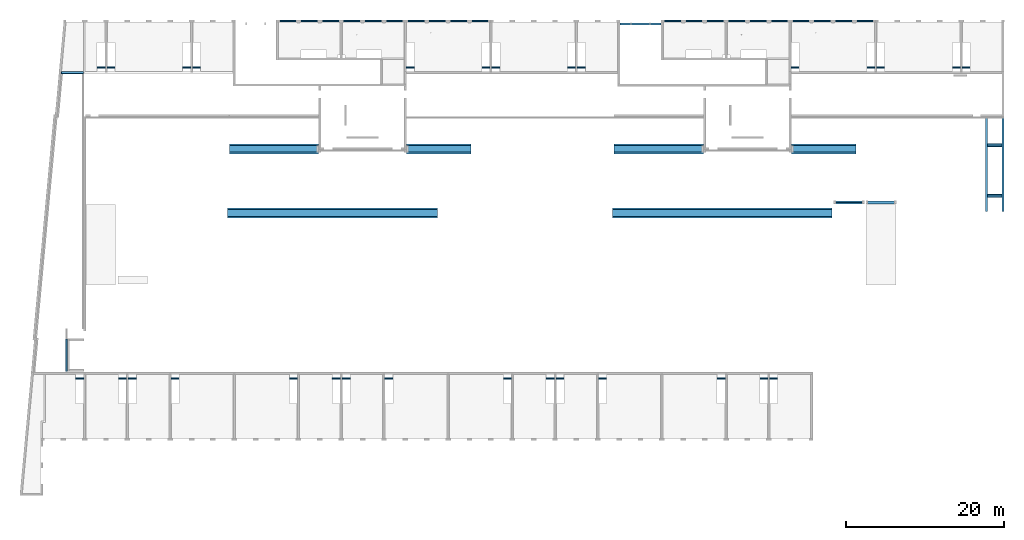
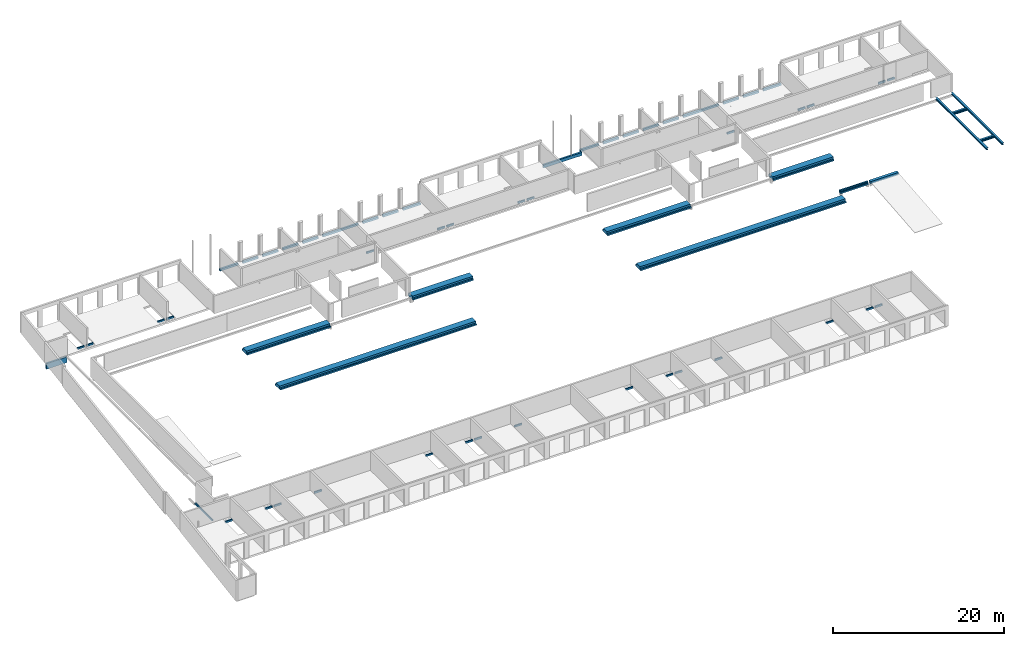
# One storey, part 4 of 18: 48 beams.
"""IFC2X3 building model written with IfcOpenShell, lengths in millimetres."""

from ifc_helpers import new_model, entity, si_unit, converted_unit, derived_unit, direction, frame, frame_2d, origin, origin_2d_with_axis, place, context, subcontext, project, spatial, polyline, circle_curve, parameter, trimmed, segment, composite_curve, rectangle, i_section, outline, extrude, clip, halfspace, source, transform, mapped, material, type_object, type_shapes, element, save


model = new_model("IFC2X3")

# Units and contexts
model_context = context("Model", 3, precision=0.01, world=origin(), true_north=direction((6.12303176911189e-17, 1.0)))
body_context = subcontext(model_context, "Body", "Model", "MODEL_VIEW")
ifc_project = project(units=[si_unit("LENGTHUNIT", "METRE", prefix="MILLI"), si_unit("AREAUNIT", "SQUARE_METRE"), si_unit("VOLUMEUNIT", "CUBIC_METRE"), converted_unit("PLANEANGLEUNIT", "DEGREE", entity("IfcRatioMeasure", 0.0174532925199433), si_unit("PLANEANGLEUNIT", "RADIAN"), dimensions=[0, 0, 0, 0, 0, 0, 0]), si_unit("MASSUNIT", "GRAM", prefix="KILO"), derived_unit("MASSDENSITYUNIT", [(si_unit("MASSUNIT", "GRAM", prefix="KILO"), 1), (si_unit("LENGTHUNIT", "METRE"), -3)]), si_unit("TIMEUNIT", "SECOND"), si_unit("FREQUENCYUNIT", "HERTZ"), si_unit("THERMODYNAMICTEMPERATUREUNIT", "DEGREE_CELSIUS"), derived_unit("THERMALTRANSMITTANCEUNIT", [(si_unit("MASSUNIT", "GRAM", prefix="KILO"), 1), (si_unit("THERMODYNAMICTEMPERATUREUNIT", "KELVIN"), -1), (si_unit("TIMEUNIT", "SECOND"), -3)]), derived_unit("VOLUMETRICFLOWRATEUNIT", [(si_unit("LENGTHUNIT", "METRE"), 3), (si_unit("TIMEUNIT", "SECOND"), -1)]), si_unit("ELECTRICCURRENTUNIT", "AMPERE"), si_unit("ELECTRICVOLTAGEUNIT", "VOLT"), si_unit("POWERUNIT", "WATT"), si_unit("FORCEUNIT", "NEWTON", prefix="KILO"), si_unit("ILLUMINANCEUNIT", "LUX"), si_unit("LUMINOUSFLUXUNIT", "LUMEN"), si_unit("LUMINOUSINTENSITYUNIT", "CANDELA"), derived_unit("USERDEFINED", [(si_unit("MASSUNIT", "GRAM", prefix="KILO"), -1), (si_unit("LENGTHUNIT", "METRE"), -2), (si_unit("TIMEUNIT", "SECOND"), 3), (si_unit("LUMINOUSFLUXUNIT", "LUMEN"), 1)]), derived_unit("LINEARVELOCITYUNIT", [(si_unit("LENGTHUNIT", "METRE"), 1), (si_unit("TIMEUNIT", "SECOND"), -1)]), si_unit("PRESSUREUNIT", "PASCAL"), derived_unit("USERDEFINED", [(si_unit("LENGTHUNIT", "METRE"), -2), (si_unit("MASSUNIT", "GRAM", prefix="KILO"), 1), (si_unit("TIMEUNIT", "SECOND"), -2)])], contexts=[model_context])

# Site, building, storey
site_placement = place(None, origin())
site = spatial("IfcSite", under=ifc_project, at=site_placement, Name="Default", CompositionType="ELEMENT")
building_placement = place(site_placement, origin())
building = spatial("IfcBuilding", under=site, at=building_placement, Name="niet gebruiken", CompositionType="ELEMENT")
storey_placement = place(building_placement, frame((0.0, 0.0, 3690.0)))
storey = spatial("IfcBuildingStorey", under=building, at=storey_placement, Name="01 eerste verdieping", CompositionType="ELEMENT", Elevation=3690.00000000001)

# Beams
ifc_material_1 = material(Name="NLRS_f2_beton prefab")
beam_type_1 = type_object("IfcBeamType", Name="NLRS_28.11_SF_WPB_prefabbeton balk dubbele sponning_gen:1250x460/200x260/200x260", PredefinedType="BEAM")
beam_1_placement = place(storey_placement, frame((74750.0, 28881.0, 50.0)))
element("IfcBeam", 1, at=beam_1_placement, inside=storey, type_object=beam_type_1, material=ifc_material_1, Name="NLRS_28.11_SF_WPB_prefabbeton balk dubbele sponning_gen:1250x460/200x260/200x260", ObjectType="NLRS_28.11_SF_WPB_prefabbeton balk dubbele sponning_gen:1250x460/200x260/200x260", context=body_context, shape_type="SweptSolid", body=[
    extrude(outline(polyline([(15.0, -625.0), (215.0, -625.0), (215.0, 625.0), (15.0, 625.0), (15.0, 425.0), (-245.0, 425.0), (-245.0, -425.0), (15.0, -425.0), (15.0, -625.0)])), frame((0.0, 0.0, -245.0), z_axis=(1.0, 0.0, 0.0), x_axis=(0.0, 0.0, -1.0)), (0.0, 0.0, 1.0), 27705.0000000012),
])
beam_2_placement = place(storey_placement, frame((97345.0, 36981.0, 50.0)))
element("IfcBeam", 2, at=beam_2_placement, inside=storey, type_object=beam_type_1, material=ifc_material_1, Name="NLRS_28.11_SF_WPB_prefabbeton balk dubbele sponning_gen:1250x460/200x260/200x260", ObjectType="NLRS_28.11_SF_WPB_prefabbeton balk dubbele sponning_gen:1250x460/200x260/200x260", context=body_context, shape_type="SweptSolid", body=[
    extrude(outline(polyline([(15.0, -625.0), (215.0, -625.0), (215.0, 625.0), (15.0, 625.0), (15.0, 425.0), (-245.0, 425.0), (-245.0, -425.0), (15.0, -425.0), (15.0, -625.0)])), frame((0.0, 0.0, -245.0), z_axis=(1.0, 0.0, 0.0), x_axis=(0.0, 0.0, -1.0)), (0.0, 0.0, 1.0), 8155.00000000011),
])
beam_3_placement = place(storey_placement, frame((74970.0, 36981.0, 50.0)))
element("IfcBeam", 3, at=beam_3_placement, inside=storey, type_object=beam_type_1, material=ifc_material_1, Name="NLRS_28.11_SF_WPB_prefabbeton balk dubbele sponning_gen:1250x460/200x260/200x260", ObjectType="NLRS_28.11_SF_WPB_prefabbeton balk dubbele sponning_gen:1250x460/200x260/200x260", context=body_context, shape_type="SweptSolid", body=[
    extrude(outline(polyline([(15.0, -625.0), (215.0, -625.0), (215.0, 625.0), (15.0, 625.0), (15.0, 425.0), (-245.0, 425.0), (-245.0, -425.0), (15.0, -425.0), (15.0, -625.0)])), frame((0.0, 0.0, -245.0), z_axis=(1.0, 0.0, 0.0), x_axis=(0.0, 0.0, -1.0)), (0.0, 0.0, 1.0), 11284.9999999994),
])
beam_4_placement = place(storey_placement, frame((26150.0, 28881.0, 50.0)))
element("IfcBeam", 4, at=beam_4_placement, inside=storey, type_object=beam_type_1, material=ifc_material_1, Name="NLRS_28.11_SF_WPB_prefabbeton balk dubbele sponning_gen:1250x460/200x260/200x260", ObjectType="NLRS_28.11_SF_WPB_prefabbeton balk dubbele sponning_gen:1250x460/200x260/200x260", context=body_context, shape_type="SweptSolid", body=[
    extrude(outline(polyline([(15.0, -625.0), (215.0, -625.0), (215.0, 625.0), (15.0, 625.0), (15.0, 425.0), (-245.0, 425.0), (-245.0, -425.0), (15.0, -425.0), (15.0, -625.0)])), frame((0.0, 0.0, -245.0), z_axis=(1.0, 0.0, 0.0), x_axis=(0.0, 0.0, -1.0)), (0.0, 0.0, 1.0), 26490.0000000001),
])
beam_5_placement = place(storey_placement, frame((48745.0, 36981.0, 50.0)))
element("IfcBeam", 5, at=beam_5_placement, inside=storey, type_object=beam_type_1, material=ifc_material_1, Name="NLRS_28.11_SF_WPB_prefabbeton balk dubbele sponning_gen:1250x460/200x260/200x260", ObjectType="NLRS_28.11_SF_WPB_prefabbeton balk dubbele sponning_gen:1250x460/200x260/200x260", context=body_context, shape_type="SweptSolid", body=[
    extrude(outline(polyline([(15.0, -625.0), (215.0, -625.0), (215.0, 625.0), (15.0, 625.0), (15.0, 425.0), (-245.0, 425.0), (-245.0, -425.0), (15.0, -425.0), (15.0, -625.0)])), frame((0.0, 0.0, -245.0), z_axis=(1.0, 0.0, 0.0), x_axis=(0.0, 0.0, -1.0)), (0.0, 0.0, 1.0), 8155.0000000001),
])
beam_6_placement = place(storey_placement, frame((26370.0, 36981.0, 50.0)))
element("IfcBeam", 6, at=beam_6_placement, inside=storey, type_object=beam_type_1, material=ifc_material_1, Name="NLRS_28.11_SF_WPB_prefabbeton balk dubbele sponning_gen:1250x460/200x260/200x260", ObjectType="NLRS_28.11_SF_WPB_prefabbeton balk dubbele sponning_gen:1250x460/200x260/200x260", context=body_context, shape_type="SweptSolid", body=[
    extrude(outline(polyline([(15.0, -625.0), (215.0, -625.0), (215.0, 625.0), (15.0, 625.0), (15.0, 425.0), (-245.0, 425.0), (-245.0, -425.0), (15.0, -425.0), (15.0, -625.0)])), frame((0.0, 0.0, -245.0), z_axis=(1.0, 0.0, 0.0), x_axis=(0.0, 0.0, -1.0)), (0.0, 0.0, 1.0), 11284.9999999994),
])
ifc_material_2 = material(Name="NLRS_f2_beton ihwg")
beam_type_2 = type_object("IfcBeamType", Name="250x280", PredefinedType="BEAM", material=ifc_material_2)
shared_shape_1 = source(origin(), body_context, "Body", "SweptSolid", [
    extrude(rectangle(XDim=2489.99999999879, YDim=250.000000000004, at=frame_2d((278.333333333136, -8.66151594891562e-12), x_axis=(1.0, 0.0))), frame((33266.6666666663, 53131.0, 3070.0)), (0.0, 0.0, 1.0), 279.999999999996),
    extrude(rectangle(XDim=2370.00000000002, YDim=250.000000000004, at=frame_2d((298.333333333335, -1.33795197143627e-11), x_axis=(1.0, 0.0))), frame((58493.3333333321, 53131.0, 3070.0), z_axis=(0.0, 0.0, 1.0), x_axis=(-1.0, 0.0, 0.0)), (0.0, 0.0, 1.0), 279.999999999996),
    extrude(rectangle(XDim=2079.99999999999, YDim=249.999999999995, at=origin_2d_with_axis()), frame((36450.0, 53131.0, 3070.0)), (0.0, 0.0, 1.0), 279.999999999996),
    extrude(rectangle(XDim=2080.0, YDim=250.000000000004, at=frame_2d((8.64019966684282e-12, -4.33431068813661e-12), x_axis=(1.0, 0.0))), frame((52650.0, 53131.0, 3070.0), z_axis=(0.0, 0.0, 1.0), x_axis=(-1.0, 0.0, 0.0)), (0.0, 0.0, 1.0), 279.999999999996),
    extrude(rectangle(XDim=2080.00000000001, YDim=249.999999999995, at=origin_2d_with_axis()), frame((55350.0, 53131.0, 3070.0)), (0.0, 0.0, 1.0), 279.999999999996),
    extrude(rectangle(XDim=4779.99999999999, YDim=249.999999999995, at=frame_2d((1.0481926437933e-09, 8.66151594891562e-12), x_axis=(1.0, 0.0))), frame((48600.0, 53131.0, 3070.0), z_axis=(0.0, 0.0, 1.0), x_axis=(-1.0, 0.0, 0.0)), (0.0, 0.0, 1.0), 279.999999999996),
    extrude(rectangle(XDim=2080.00000000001, YDim=250.000000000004, at=frame_2d((0.0, 4.33431068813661e-12), x_axis=(1.0, 0.0))), frame((44550.0, 53131.0, 3070.0), z_axis=(0.0, 0.0, 1.0), x_axis=(-1.0, 0.0, 0.0)), (0.0, 0.0, 1.0), 279.999999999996),
    extrude(rectangle(XDim=2079.99999999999, YDim=249.999999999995, at=origin_2d_with_axis()), frame((41850.0, 53131.0, 3070.0), z_axis=(0.0, 0.0, 1.0), x_axis=(-1.0, 0.0, 0.0)), (0.0, 0.0, 1.0), 279.999999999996),
    extrude(rectangle(XDim=2080.00000000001, YDim=250.000000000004, at=frame_2d((-4.43378667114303e-12, 0.0), x_axis=(1.0, 0.0))), frame((39150.0, 53131.0, 3070.0), z_axis=(0.0, 0.0, 1.0), x_axis=(-1.0, 0.0, 0.0)), (0.0, 0.0, 1.0), 279.999999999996),
])
type_shapes(beam_type_2, [shared_shape_1])
beam_7_placement = place(storey_placement, frame((0.0, 0.0, -3690.0)))
element("IfcBeam", 7, at=beam_7_placement, inside=storey, type_object=beam_type_2, material=ifc_material_2, Name="NLRS_28.11_SF_WPB_betonbalk ihwg recht_gen:250x280", ObjectType="250x280", context=body_context, shape_type="MappedRepresentation", body=[
    mapped(shared_shape_1, transform((0.0, 0.0, 0.0), scale=1.0)),
])
beam_type_3 = type_object("IfcBeamType", Name="250x280", PredefinedType="BEAM", material=ifc_material_2)
shared_shape_2 = source(origin(), body_context, "Body", "SweptSolid", [
    extrude(rectangle(XDim=2489.99999999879, YDim=250.000000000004, at=frame_2d((278.333333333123, -6.03250782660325e-12), x_axis=(1.0, 0.0))), frame((81866.6666666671, 53131.0, 3070.0)), (0.0, 0.0, 1.0), 279.999999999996),
    extrude(rectangle(XDim=2370.00000000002, YDim=250.000000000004, at=frame_2d((298.333333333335, -1.77067249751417e-11), x_axis=(1.0, 0.0))), frame((107093.333333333, 53131.0, 3070.0), z_axis=(0.0, 0.0, 1.0), x_axis=(-1.0, 0.0, 0.0)), (0.0, 0.0, 1.0), 279.999999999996),
    extrude(rectangle(XDim=2079.99999999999, YDim=249.999999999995, at=frame_2d((8.75388650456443e-12, 0.0), x_axis=(1.0, 0.0))), frame((85050.0, 53131.0, 3070.0)), (0.0, 0.0, 1.0), 279.999999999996),
    extrude(rectangle(XDim=2080.0, YDim=250.000000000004, at=frame_2d((-8.64019966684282e-12, 0.0), x_axis=(1.0, 0.0))), frame((101250.0, 53131.0, 3070.0), z_axis=(0.0, 0.0, 1.0), x_axis=(-1.0, 0.0, 0.0)), (0.0, 0.0, 1.0), 279.999999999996),
    extrude(rectangle(XDim=2080.00000000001, YDim=249.999999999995, at=frame_2d((0.0, -8.66862137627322e-12), x_axis=(1.0, 0.0))), frame((103950.0, 53131.0, 3070.0)), (0.0, 0.0, 1.0), 279.999999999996),
    extrude(rectangle(XDim=4779.99999999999, YDim=249.999999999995, at=frame_2d((1.05683284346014e-09, 1.29887212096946e-11), x_axis=(1.0, 0.0))), frame((97200.0, 53131.0, 3070.0), z_axis=(0.0, 0.0, 1.0), x_axis=(-1.0, 0.0, 0.0)), (0.0, 0.0, 1.0), 279.999999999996),
    extrude(rectangle(XDim=2080.00000000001, YDim=250.000000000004, at=origin_2d_with_axis()), frame((93150.0, 53131.0, 3070.0), z_axis=(0.0, 0.0, 1.0), x_axis=(-1.0, 0.0, 0.0)), (0.0, 0.0, 1.0), 279.999999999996),
    extrude(rectangle(XDim=2079.99999999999, YDim=249.999999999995, at=frame_2d((8.75388650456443e-12, 4.33431068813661e-12), x_axis=(1.0, 0.0))), frame((90450.0, 53131.0, 3070.0), z_axis=(0.0, 0.0, 1.0), x_axis=(-1.0, 0.0, 0.0)), (0.0, 0.0, 1.0), 279.999999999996),
    extrude(rectangle(XDim=2080.00000000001, YDim=250.000000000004, at=frame_2d((0.0, -4.33431068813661e-12), x_axis=(1.0, 0.0))), frame((87750.0, 53131.0, 3070.0), z_axis=(0.0, 0.0, 1.0), x_axis=(-1.0, 0.0, 0.0)), (0.0, 0.0, 1.0), 279.999999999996),
])
type_shapes(beam_type_3, [shared_shape_2])
beam_8_placement = place(storey_placement, frame((0.0, 0.0, -3690.0)))
element("IfcBeam", 8, at=beam_8_placement, inside=storey, type_object=beam_type_3, material=ifc_material_2, Name="NLRS_28.11_SF_WPB_betonbalk ihwg recht_gen:250x280", ObjectType="250x280", context=body_context, shape_type="MappedRepresentation", body=[
    mapped(shared_shape_2, transform((0.0, 0.0, 0.0), scale=1.0)),
])
ifc_material_3 = material(Name="NLRS_h2_staal")
beam_type_4 = type_object("IfcBeamType", Name="NLRS_28.11_SF_WPB_stalen ligger buisprofiel warmgevormd vierkant_gen:ligger buisprofiel warmgevormd vierkant SHSH_250x450x10", PredefinedType="BEAM")
beam_9_placement = place(storey_placement, frame((75700.0, 52764.5000000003, -450.0)))
element("IfcBeam", 9, at=beam_9_placement, inside=storey, type_object=beam_type_4, material=ifc_material_3, Name="NLRS_28.11_SF_WPB_stalen ligger buisprofiel warmgevormd vierkant_gen:ligger buisprofiel warmgevormd vierkant SHSH_250x450x10", ObjectType="NLRS_28.11_SF_WPB_stalen ligger buisprofiel warmgevormd vierkant_gen:ligger buisprofiel warmgevormd vierkant SHSH_250x450x10", context=body_context, shape_type="SweptSolid", body=[
    extrude(outline(polyline([(-125.0, -225.0), (125.0, -225.0), (125.0, 225.0), (-125.0, 225.0), (-125.0, -225.0)]), holes=[composite_curve([segment(trimmed(circle_curve(frame_2d((-105.0, -205.0), x_axis=(-1.0, 0.0)), 10.0), [parameter(360.0)], [parameter(89.9999999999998)], True, "PARAMETER"), False, "CONTINUOUS"), segment(polyline([(-115.0, -205.0), (-115.0, 205.0)]), True, "CONTINUOUS"), segment(trimmed(circle_curve(frame_2d((-105.0, 205.0), x_axis=(-1.0, 0.0)), 10.0), [parameter(269.999999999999)], [parameter(360.0)], True, "PARAMETER"), False, "CONTINUOUS"), segment(polyline([(-105.0, 215.0), (105.0, 215.0)]), True, "CONTINUOUS"), segment(trimmed(circle_curve(frame_2d((105.0, 205.0), x_axis=(-1.0, 0.0)), 10.0), [parameter(180.0)], [parameter(269.999999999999)], True, "PARAMETER"), False, "CONTINUOUS"), segment(polyline([(115.0, 205.0), (115.0, -205.0)]), True, "CONTINUOUS"), segment(trimmed(circle_curve(frame_2d((105.0, -205.0), x_axis=(-1.0, 0.0)), 10.0), [parameter(89.9999999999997)], [parameter(180.0)], True, "PARAMETER"), False, "CONTINUOUS"), segment(polyline([(105.0, -215.0), (-105.0, -215.0)]), True, "CONTINUOUS")], self_intersect=False)]), frame((0.0, 0.0, -225.0), z_axis=(1.0, 0.0, 0.0), x_axis=(0.0, -1.0, 0.0)), (0.0, 0.0, 1.0), 5200.0),
])
beam_type_5 = type_object("IfcBeamType", Name="NLRS_28.11_SF_WPB_betonbalk ihwg recht_gen:800x250", PredefinedType="BEAM")
beam_10_placement = place(storey_placement, frame((5080.0, 46621.0, -340.0)))
element("IfcBeam", 10, at=beam_10_placement, inside=storey, type_object=beam_type_5, material=ifc_material_2, Name="NLRS_28.11_SF_WPB_betonbalk ihwg recht_gen:800x250", ObjectType="NLRS_28.11_SF_WPB_betonbalk ihwg recht_gen:800x250", context=body_context, shape_type="Clipping", body=[
    clip(extrude(rectangle(XDim=799.999999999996, YDim=249.999999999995, at=frame_2d((-2.8421709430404e-13, 1.29958266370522e-11), x_axis=(1.0, 0.0))), frame((65.3473603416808, 0.0, -400.0), z_axis=(1.0, 0.0, 0.0), x_axis=(0.0, 0.0, -1.0)), (0.0, 0.0, 1.0), 2784.65263965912), halfspace(frame((56.0776821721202, -225.0, 3450.0), z_axis=(-0.995731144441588, 0.0923010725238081, 0.0), x_axis=(0.0, 0.0, -1.0)), False)),
])
beam_type_6 = type_object("IfcBeamType", Name="NLRS_28.11_SF_WPB_betonbalk ihwg recht_gen:180x250", PredefinedType="BEAM")
for number, where, name in (
    (11, (59525.0, 47236.0, -90.0), "NLRS_28.11_SF_WPB_betonbalk ihwg recht_gen:180x250"),
    (12, (58305.0, 47236.0, -90.0), "NLRS_28.11_SF_WPB_betonbalk ihwg recht_gen:180x250"),
    (13, (48725.0, 47236.0, -90.0), "NLRS_28.11_SF_WPB_betonbalk ihwg recht_gen:180x250"),
):
    element("IfcBeam", number, at=place(storey_placement, frame(where)), inside=storey, type_object=beam_type_6, material=ifc_material_2, Name=name, ObjectType="NLRS_28.11_SF_WPB_betonbalk ihwg recht_gen:180x250", context=body_context, shape_type="SweptSolid", body=[
        extrude(rectangle(XDim=249.999999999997, YDim=180.000000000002, at=frame_2d((-2.70006239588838e-13, -4.33431068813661e-12), x_axis=(1.0, 0.0))), frame((0.0, 0.0, -125.0), z_axis=(1.0, 0.0, 0.0), x_axis=(0.0, 0.0, -1.0)), (0.0, 0.0, 1.0), 970.000000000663),
    ])
for number, where, name in (
    (14, (21725.0, 47236.0, -90.0), "NLRS_28.11_SF_WPB_betonbalk ihwg recht_gen:180x250"),
    (15, (20505.0, 47236.0, -90.0), "NLRS_28.11_SF_WPB_betonbalk ihwg recht_gen:180x250"),
    (16, (10925.0, 47236.0, -90.0), "NLRS_28.11_SF_WPB_betonbalk ihwg recht_gen:180x250"),
    (17, (9705.0, 47236.0, -90.0), "NLRS_28.11_SF_WPB_betonbalk ihwg recht_gen:180x250"),
):
    element("IfcBeam", number, at=place(storey_placement, frame(where)), inside=storey, type_object=beam_type_6, material=ifc_material_2, Name=name, ObjectType="NLRS_28.11_SF_WPB_betonbalk ihwg recht_gen:180x250", context=body_context, shape_type="SweptSolid", body=[
        extrude(rectangle(XDim=249.999999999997, YDim=180.000000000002, at=frame_2d((-2.70006239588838e-13, -4.33431068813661e-12), x_axis=(1.0, 0.0))), frame((0.0, 0.0, -125.0), z_axis=(1.0, 0.0, 0.0), x_axis=(0.0, 0.0, -1.0)), (0.0, 0.0, 1.0), 970.000000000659),
    ])
for number, where, name in (
    (18, (69105.0, 47236.0, -90.0), "NLRS_28.11_SF_WPB_betonbalk ihwg recht_gen:180x250"),
    (19, (70325.0, 47236.0, -90.0), "NLRS_28.11_SF_WPB_betonbalk ihwg recht_gen:180x250"),
    (20, (97325.0, 47236.0, -90.0), "NLRS_28.11_SF_WPB_betonbalk ihwg recht_gen:180x250"),
    (21, (106905.0, 47236.0, -90.0), "NLRS_28.11_SF_WPB_betonbalk ihwg recht_gen:180x250"),
    (22, (108125.0, 47236.0, -90.0), "NLRS_28.11_SF_WPB_betonbalk ihwg recht_gen:180x250"),
    (23, (117705.0, 47236.0, -90.0), "NLRS_28.11_SF_WPB_betonbalk ihwg recht_gen:180x250"),
    (24, (118925.0, 47236.0, -90.0), "NLRS_28.11_SF_WPB_betonbalk ihwg recht_gen:180x250"),
):
    element("IfcBeam", number, at=place(storey_placement, frame(where)), inside=storey, type_object=beam_type_6, material=ifc_material_2, Name=name, ObjectType="NLRS_28.11_SF_WPB_betonbalk ihwg recht_gen:180x250", context=body_context, shape_type="SweptSolid", body=[
        extrude(rectangle(XDim=249.999999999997, YDim=180.000000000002, at=frame_2d((-2.70006239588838e-13, -4.33431068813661e-12), x_axis=(1.0, 0.0))), frame((0.0, 0.0, -125.0), z_axis=(1.0, 0.0, 0.0), x_axis=(0.0, 0.0, -1.0)), (0.0, 0.0, 1.0), 970.000000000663),
    ])
for number, where, name in (
    (25, (67625.0, 8006.0, -90.0), "NLRS_28.11_SF_WPB_betonbalk ihwg recht_gen:180x250"),
    (26, (66405.0, 8006.0, -90.0), "NLRS_28.11_SF_WPB_betonbalk ihwg recht_gen:180x250"),
    (27, (61005.0, 8006.0, -90.0), "NLRS_28.11_SF_WPB_betonbalk ihwg recht_gen:180x250"),
    (28, (46025.0, 8006.0, -90.0), "NLRS_28.11_SF_WPB_betonbalk ihwg recht_gen:180x250"),
):
    element("IfcBeam", number, at=place(storey_placement, frame(where)), inside=storey, type_object=beam_type_6, material=ifc_material_2, Name=name, ObjectType="NLRS_28.11_SF_WPB_betonbalk ihwg recht_gen:180x250", context=body_context, shape_type="SweptSolid", body=[
        extrude(rectangle(XDim=249.999999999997, YDim=180.0, at=frame_2d((-2.70006239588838e-13, 1.08002495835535e-12), x_axis=(1.0, 0.0))), frame((0.0, 0.0, -125.0), z_axis=(1.0, 0.0, 0.0), x_axis=(0.0, 0.0, -1.0)), (0.0, 0.0, 1.0), 970.000000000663),
    ])
for number, where, name in (
    (29, (40625.0, 8006.0, -90.0), "NLRS_28.11_SF_WPB_betonbalk ihwg recht_gen:180x250"),
    (30, (39375.0, 8006.0, -90.0), "NLRS_28.11_SF_WPB_betonbalk ihwg recht_gen:180x250"),
):
    element("IfcBeam", number, at=place(storey_placement, frame(where)), inside=storey, type_object=beam_type_6, material=ifc_material_2, Name=name, ObjectType="NLRS_28.11_SF_WPB_betonbalk ihwg recht_gen:180x250", context=body_context, shape_type="SweptSolid", body=[
        extrude(rectangle(XDim=249.999999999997, YDim=180.0, at=frame_2d((-2.70006239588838e-13, 1.08002495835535e-12), x_axis=(1.0, 0.0))), frame((0.0, 0.0, -125.0), z_axis=(1.0, 0.0, 0.0), x_axis=(0.0, 0.0, -1.0)), (0.0, 0.0, 1.0), 1000.00000000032),
    ])
beam_11_placement = place(storey_placement, frame((34005.0, 8006.0, -90.0)))
element("IfcBeam", 31, at=beam_11_placement, inside=storey, type_object=beam_type_6, material=ifc_material_2, Name="NLRS_28.11_SF_WPB_betonbalk ihwg recht_gen:180x250", ObjectType="NLRS_28.11_SF_WPB_betonbalk ihwg recht_gen:180x250", context=body_context, shape_type="SweptSolid", body=[
    extrude(rectangle(XDim=249.999999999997, YDim=180.0, at=frame_2d((-2.70006239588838e-13, 1.08002495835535e-12), x_axis=(1.0, 0.0))), frame((0.0, 0.0, -125.0), z_axis=(1.0, 0.0, 0.0), x_axis=(0.0, 0.0, -1.0)), (0.0, 0.0, 1.0), 970.000000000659),
])
beam_12_placement = place(storey_placement, frame((19025.0, 8006.0, -90.0)))
element("IfcBeam", 32, at=beam_12_placement, inside=storey, type_object=beam_type_6, material=ifc_material_2, Name="NLRS_28.11_SF_WPB_betonbalk ihwg recht_gen:180x250", ObjectType="NLRS_28.11_SF_WPB_betonbalk ihwg recht_gen:180x250", context=body_context, shape_type="SweptSolid", body=[
    extrude(rectangle(XDim=249.999999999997, YDim=180.0, at=frame_2d((-2.70006239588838e-13, 1.08002495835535e-12), x_axis=(1.0, 0.0))), frame((0.0, 0.0, -125.0), z_axis=(1.0, 0.0, 0.0), x_axis=(0.0, 0.0, -1.0)), (0.0, 0.0, 1.0), 970.000000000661),
])
beam_13_placement = place(storey_placement, frame((13625.0, 8006.0, -90.0)))
element("IfcBeam", 33, at=beam_13_placement, inside=storey, type_object=beam_type_6, material=ifc_material_2, Name="NLRS_28.11_SF_WPB_betonbalk ihwg recht_gen:180x250", ObjectType="NLRS_28.11_SF_WPB_betonbalk ihwg recht_gen:180x250", context=body_context, shape_type="SweptSolid", body=[
    extrude(rectangle(XDim=249.999999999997, YDim=180.0, at=frame_2d((-2.70006239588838e-13, 1.08002495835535e-12), x_axis=(1.0, 0.0))), frame((0.0, 0.0, -125.0), z_axis=(1.0, 0.0, 0.0), x_axis=(0.0, 0.0, -1.0)), (0.0, 0.0, 1.0), 970.000000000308),
])
for number, where, name in (
    (34, (12405.0, 8006.0, -90.0), "NLRS_28.11_SF_WPB_betonbalk ihwg recht_gen:180x250"),
    (35, (7005.0, 8006.0, -90.0), "NLRS_28.11_SF_WPB_betonbalk ihwg recht_gen:180x250"),
):
    element("IfcBeam", number, at=place(storey_placement, frame(where)), inside=storey, type_object=beam_type_6, material=ifc_material_2, Name=name, ObjectType="NLRS_28.11_SF_WPB_betonbalk ihwg recht_gen:180x250", context=body_context, shape_type="SweptSolid", body=[
        extrude(rectangle(XDim=249.999999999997, YDim=180.0, at=frame_2d((-2.70006239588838e-13, 1.08002495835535e-12), x_axis=(1.0, 0.0))), frame((0.0, 0.0, -125.0), z_axis=(1.0, 0.0, 0.0), x_axis=(0.0, 0.0, -1.0)), (0.0, 0.0, 1.0), 970.000000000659),
    ])
beam_14_placement = place(storey_placement, frame((73025.0, 8006.0, -90.0)))
element("IfcBeam", 36, at=beam_14_placement, inside=storey, type_object=beam_type_6, material=ifc_material_2, Name="NLRS_28.11_SF_WPB_betonbalk ihwg recht_gen:180x250", ObjectType="NLRS_28.11_SF_WPB_betonbalk ihwg recht_gen:180x250", context=body_context, shape_type="SweptSolid", body=[
    extrude(rectangle(XDim=249.999999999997, YDim=180.0, at=frame_2d((-2.70006239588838e-13, 1.08002495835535e-12), x_axis=(1.0, 0.0))), frame((0.0, 0.0, -125.0), z_axis=(1.0, 0.0, 0.0), x_axis=(0.0, 0.0, -1.0)), (0.0, 0.0, 1.0), 970.000000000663),
])
beam_15_placement = place(storey_placement, frame((87975.0, 8006.0, -90.0)))
element("IfcBeam", 37, at=beam_15_placement, inside=storey, type_object=beam_type_6, material=ifc_material_2, Name="NLRS_28.11_SF_WPB_betonbalk ihwg recht_gen:180x250", ObjectType="NLRS_28.11_SF_WPB_betonbalk ihwg recht_gen:180x250", context=body_context, shape_type="SweptSolid", body=[
    extrude(rectangle(XDim=249.999999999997, YDim=180.0, at=frame_2d((-2.70006239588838e-13, 1.08002495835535e-12), x_axis=(1.0, 0.0))), frame((0.0, 0.0, -125.0), z_axis=(1.0, 0.0, 0.0), x_axis=(0.0, 0.0, -1.0)), (0.0, 0.0, 1.0), 1000.00000000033),
])
for number, where, name in (
    (38, (93405.0, 8006.0, -90.0), "NLRS_28.11_SF_WPB_betonbalk ihwg recht_gen:180x250"),
    (39, (94625.0, 8006.0, -90.0), "NLRS_28.11_SF_WPB_betonbalk ihwg recht_gen:180x250"),
):
    element("IfcBeam", number, at=place(storey_placement, frame(where)), inside=storey, type_object=beam_type_6, material=ifc_material_2, Name=name, ObjectType="NLRS_28.11_SF_WPB_betonbalk ihwg recht_gen:180x250", context=body_context, shape_type="SweptSolid", body=[
        extrude(rectangle(XDim=249.999999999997, YDim=180.0, at=frame_2d((-2.70006239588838e-13, 1.08002495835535e-12), x_axis=(1.0, 0.0))), frame((0.0, 0.0, -125.0), z_axis=(1.0, 0.0, 0.0), x_axis=(0.0, 0.0, -1.0)), (0.0, 0.0, 1.0), 970.000000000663),
    ])
beam_type_7 = type_object("IfcBeamType", Name="NLRS_28.11_SF_WPB_prefabbeton balk recht_gen:380x350", PredefinedType="BEAM")
beam_16_placement = place(storey_placement, frame((110555.0, 30236.0, 20.0), z_axis=(0.0, 0.0, 1.0), x_axis=(-1.0, 0.0, 0.0)))
element("IfcBeam", 40, at=beam_16_placement, inside=storey, type_object=beam_type_7, material=ifc_material_1, Name="NLRS_28.11_SF_WPB_prefabbeton balk recht_gen:380x350", ObjectType="NLRS_28.11_SF_WPB_prefabbeton balk recht_gen:380x350", context=body_context, shape_type="SweptSolid", body=[
    extrude(rectangle(XDim=350.0, YDim=380.0, at=frame_2d((-2.70006239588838e-13, -8.65441052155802e-12), x_axis=(1.0, 0.0))), frame((0.0, 0.0, -175.0), z_axis=(1.0, 0.0, 0.0), x_axis=(0.0, 0.0, -1.0)), (0.0, 0.0, 1.0), 3759.99999999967),
])
beam_type_8 = type_object("IfcBeamType", Name="NLRS_28.11_SF_WPB_stalen ligger hoekprofiel gelijkzijdig_gen:ligger gelijzijdig hoekprofiel LEQU_200x200x12", PredefinedType="BEAM")
beam_17_placement = place(storey_placement, frame((5832.49999999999, 12986.0, 33.0), z_axis=(0.0, 0.0, 1.0), x_axis=(0.0, -1.0, 0.0)))
element("IfcBeam", 41, at=beam_17_placement, inside=storey, type_object=beam_type_8, material=ifc_material_3, Name="NLRS_28.11_SF_WPB_stalen ligger hoekprofiel gelijkzijdig_gen:ligger gelijzijdig hoekprofiel LEQU_200x200x12", ObjectType="NLRS_28.11_SF_WPB_stalen ligger hoekprofiel gelijkzijdig_gen:ligger gelijzijdig hoekprofiel LEQU_200x200x12", context=body_context, shape_type="SweptSolid", body=[
    extrude(outline(composite_curve([segment(polyline([(68.0, -128.0), (72.0, -128.0)]), True, "CONTINUOUS"), segment(polyline([(72.0, -128.0), (72.0, 72.0)]), True, "CONTINUOUS"), segment(polyline([(72.0, 72.0), (-128.0, 72.0)]), True, "CONTINUOUS"), segment(polyline([(-128.0, 72.0), (-128.0, 68.0)]), True, "CONTINUOUS"), segment(trimmed(circle_curve(frame_2d((-120.0, 68.0), x_axis=(-1.0, 0.0)), 7.99999999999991), [parameter(0.0)], [parameter(90.0000000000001)], True, "PARAMETER"), True, "CONTINUOUS"), segment(polyline([(-120.0, 60.0), (44.0, 60.0)]), True, "CONTINUOUS"), segment(trimmed(circle_curve(frame_2d((44.0, 44.0), x_axis=(0.0, 1.0)), 15.9999999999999), [parameter(270.0)], [parameter(0.0)], True, "PARAMETER"), False, "CONTINUOUS"), segment(polyline([(60.0, 44.0), (60.0, -120.0)]), True, "CONTINUOUS"), segment(trimmed(circle_curve(frame_2d((68.0, -120.0), x_axis=(-1.0, 0.0)), 7.9999999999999), [parameter(0.0)], [parameter(90.0000000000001)], True, "PARAMETER"), True, "CONTINUOUS")], self_intersect=False)), frame((0.0, 20.5000000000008, -128.0), z_axis=(1.0, 0.0, 0.0), x_axis=(0.0, 0.0, -1.0)), (0.0, 0.0, 1.0), 4100.0),
])
beam_type_9 = type_object("IfcBeamType", Name="NLRS_28.11_SF_WPB_prefabbeton balk enkele sponning_gen:380x370/180x150", PredefinedType="BEAM")
beam_18_placement = place(storey_placement, frame((106505.0, 30236.0, 40.0), z_axis=(0.0, 0.0, 1.0), x_axis=(-1.0, 0.0, 0.0)))
element("IfcBeam", 42, at=beam_18_placement, inside=storey, type_object=beam_type_9, material=ifc_material_1, Name="NLRS_28.11_SF_WPB_prefabbeton balk enkele sponning_gen:380x370/180x150", ObjectType="NLRS_28.11_SF_WPB_prefabbeton balk enkele sponning_gen:380x370/180x150", context=body_context, shape_type="SweptSolid", body=[
    extrude(outline(polyline([(-173.333333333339, -193.333333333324), (196.666666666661, -193.333333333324), (196.666666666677, 186.666666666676), (-23.3333333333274, 186.666666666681), (-23.3333333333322, 6.66666666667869), (-173.333333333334, 6.6666666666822), (-173.333333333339, -193.333333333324)])), frame((0.0, 3.33333333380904, -173.333333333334), z_axis=(1.0, 0.0, 0.0), x_axis=(0.0, 0.0, -1.0)), (0.0, 0.0, 1.0), 3760.00000000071),
])
beam_type_10 = type_object("IfcBeamType", Name="NLRS_28.11_SF_WPB_stalen ligger HEA_gen:ligger HEA 260", PredefinedType="BEAM")
for number, where, z_axis, x_axis, name in (
    (43, (124070.0, 41041.0, 40.0), (0.0, 0.0, 1.0), (0.0, -1.0, 0.0), "NLRS_28.11_SF_WPB_stalen ligger HEA_gen:ligger HEA 260"),
    (44, (121970.0, 41041.0, 40.0), (0.0, 0.0, 1.0), (0.0, -1.0, 0.0), "NLRS_28.11_SF_WPB_stalen ligger HEA_gen:ligger HEA 260"),
):
    element("IfcBeam", number, at=place(storey_placement, frame(where, z_axis=z_axis, x_axis=x_axis)), inside=storey, type_object=beam_type_10, material=ifc_material_3, Name=name, ObjectType="NLRS_28.11_SF_WPB_stalen ligger HEA_gen:ligger HEA 260", context=body_context, shape_type="SweptSolid", body=[
        extrude(i_section(OverallWidth=260.00000000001, OverallDepth=250.000000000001, WebThickness=7.49999999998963, FlangeThickness=12.4999999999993, FilletRadius=23.999999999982, at=frame_2d((-1.35713662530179e-12, 0.0), x_axis=(0.0, 1.0))), frame((0.0, 0.0, -125.0), z_axis=(1.0, 0.0, 0.0), x_axis=(0.0, 0.0, -1.0)), (0.0, 0.0, 1.0), 11939.9999999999),
    ])
beam_19_placement = place(storey_placement, frame((122100.014648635, 37454.75, 40.0)))
element("IfcBeam", 45, at=beam_19_placement, inside=storey, type_object=beam_type_10, material=ifc_material_3, Name="NLRS_28.11_SF_WPB_stalen ligger HEA_gen:ligger HEA 260", ObjectType="NLRS_28.11_SF_WPB_stalen ligger HEA_gen:ligger HEA 260", context=body_context, shape_type="SweptSolid", body=[
    extrude(i_section(OverallWidth=260.000000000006, OverallDepth=250.000000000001, WebThickness=7.49999999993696, FlangeThickness=12.4999999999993, FilletRadius=23.9999999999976, at=frame_2d((-8.10018718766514e-13, 8.66862137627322e-12), x_axis=(0.0, 1.0))), frame((0.0, 0.0, -125.0), z_axis=(1.0, 0.0, 0.0), x_axis=(0.0, 0.0, -1.0)), (0.0, 0.0, 1.0), 1839.98535136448),
])
beam_20_placement = place(storey_placement, frame((122100.014648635, 31045.0, 40.0)))
element("IfcBeam", 46, at=beam_20_placement, inside=storey, type_object=beam_type_10, material=ifc_material_3, Name="NLRS_28.11_SF_WPB_stalen ligger HEA_gen:ligger HEA 260", ObjectType="NLRS_28.11_SF_WPB_stalen ligger HEA_gen:ligger HEA 260", context=body_context, shape_type="SweptSolid", body=[
    extrude(i_section(OverallWidth=260.000000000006, OverallDepth=250.000000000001, WebThickness=7.49999999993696, FlangeThickness=12.4999999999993, FilletRadius=23.9999999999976, at=frame_2d((-8.10018718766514e-13, 4.32009983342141e-12), x_axis=(0.0, 1.0))), frame((0.0, 0.0, -125.0), z_axis=(1.0, 0.0, 0.0), x_axis=(0.0, 0.0, -1.0)), (0.0, 0.0, 1.0), 1839.98535136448),
])
beam_type_11 = type_object("IfcBeamType", Name="ligger stripstaal RECT_460x10", PredefinedType="BEAM", material=ifc_material_3)
shared_shape_3 = source(origin(), body_context, "Body", "SweptSolid", [
    extrude(rectangle(XDim=1839.98535136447, YDim=460.0, at=origin_2d_with_axis()), frame((0.0, 0.0, -5.0), z_axis=(0.0, 0.0, 1.0), x_axis=(-1.0, 0.0, 0.0)), (0.0, 0.0, 1.0), 9.99999999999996),
    extrude(rectangle(XDim=1839.98535136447, YDim=460.0, at=origin_2d_with_axis()), frame((0.0, 0.0, -5.0), z_axis=(0.0, 0.0, 1.0), x_axis=(-1.0, 0.0, 0.0)), (0.0, 0.0, 1.0), 9.99999999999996),
])
type_shapes(beam_type_11, [shared_shape_3])
for number, where, name in (
    (47, (123020.007324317, 37454.75, -215.0), "NLRS_28.11_SF_WPB_stalen ligger stripstaal_gen:ligger stripstaal RECT_460x10"),
    (48, (123020.007324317, 31045.0, -215.0), "NLRS_28.11_SF_WPB_stalen ligger stripstaal_gen:ligger stripstaal RECT_460x10"),
):
    element("IfcBeam", number, at=place(storey_placement, frame(where)), inside=storey, type_object=beam_type_11, material=ifc_material_3, Name=name, ObjectType="ligger stripstaal RECT_460x10", context=body_context, shape_type="MappedRepresentation", body=[
        mapped(shared_shape_3, transform((0.0, 0.0, 0.0), scale=1.0)),
    ])

save(model, "model.ifc")
